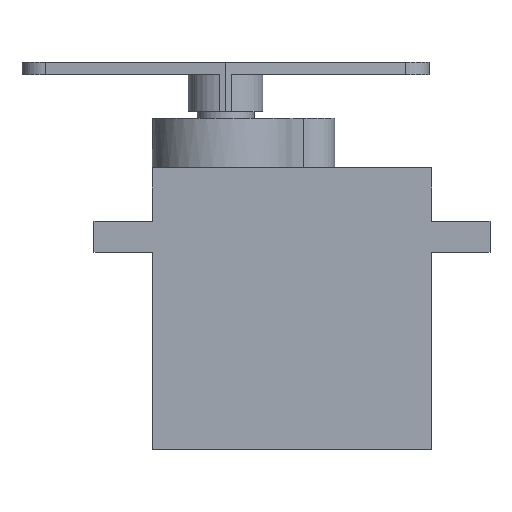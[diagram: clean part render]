
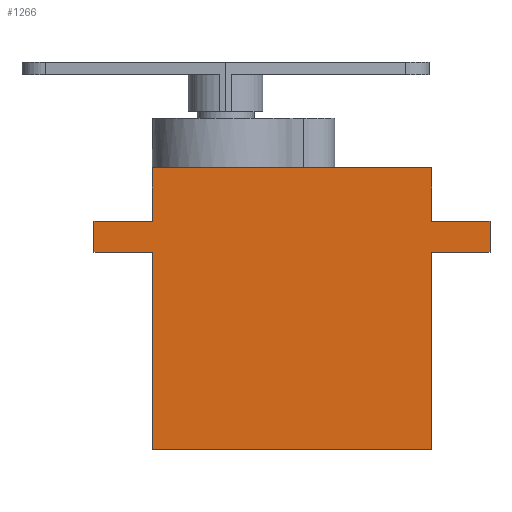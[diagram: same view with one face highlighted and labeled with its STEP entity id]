
A CAD part, front view. The second image highlights one B-rep face of the part: STEP entity #1266.
In plain terms, the highlighted planar face has unit normal (0, -1, 0).
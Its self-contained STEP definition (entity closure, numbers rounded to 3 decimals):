
#91=PLANE('',#1381);
#138=FACE_OUTER_BOUND('',#211,.T.);
#211=EDGE_LOOP('',(#996,#997,#998,#999,#1000,#1001,#1002,#1003,#1004,#1005,
#1006,#1007,#1008));
#295=LINE('',#1918,#406);
#298=LINE('',#1925,#409);
#312=LINE('',#1958,#423);
#316=LINE('',#1966,#427);
#318=LINE('',#1970,#429);
#323=LINE('',#1979,#434);
#324=LINE('',#1981,#435);
#335=LINE('',#2008,#446);
#340=LINE('',#2017,#451);
#345=LINE('',#2027,#456);
#346=LINE('',#2030,#457);
#350=LINE('',#2036,#461);
#351=LINE('',#2038,#462);
#406=VECTOR('',#1533,10.);
#409=VECTOR('',#1540,10.);
#423=VECTOR('',#1566,10.);
#427=VECTOR('',#1574,10.);
#429=VECTOR('',#1578,10.);
#434=VECTOR('',#1585,10.);
#435=VECTOR('',#1588,10.);
#446=VECTOR('',#1611,10.);
#451=VECTOR('',#1618,10.);
#456=VECTOR('',#1627,10.);
#457=VECTOR('',#1630,10.);
#461=VECTOR('',#1636,10.);
#462=VECTOR('',#1639,10.);
#580=VERTEX_POINT('',#1899);
#584=VERTEX_POINT('',#1916);
#586=VERTEX_POINT('',#1924);
#598=VERTEX_POINT('',#1955);
#599=VERTEX_POINT('',#1957);
#601=VERTEX_POINT('',#1965);
#602=VERTEX_POINT('',#1969);
#605=VERTEX_POINT('',#1977);
#614=VERTEX_POINT('',#2005);
#615=VERTEX_POINT('',#2007);
#618=VERTEX_POINT('',#2015);
#621=VERTEX_POINT('',#2025);
#622=VERTEX_POINT('',#2029);
#706=EDGE_CURVE('',#584,#580,#295,.T.);
#709=EDGE_CURVE('',#580,#586,#298,.T.);
#725=EDGE_CURVE('',#598,#599,#312,.T.);
#729=EDGE_CURVE('',#601,#599,#316,.T.);
#731=EDGE_CURVE('',#602,#601,#318,.T.);
#736=EDGE_CURVE('',#605,#598,#323,.T.);
#737=EDGE_CURVE('',#602,#584,#324,.T.);
#750=EDGE_CURVE('',#615,#614,#335,.T.);
#755=EDGE_CURVE('',#618,#614,#340,.T.);
#760=EDGE_CURVE('',#621,#618,#345,.T.);
#761=EDGE_CURVE('',#622,#615,#346,.T.);
#765=EDGE_CURVE('',#621,#586,#350,.T.);
#766=EDGE_CURVE('',#622,#605,#351,.T.);
#996=ORIENTED_EDGE('',*,*,#766,.F.);
#997=ORIENTED_EDGE('',*,*,#761,.T.);
#998=ORIENTED_EDGE('',*,*,#750,.T.);
#999=ORIENTED_EDGE('',*,*,#755,.F.);
#1000=ORIENTED_EDGE('',*,*,#760,.F.);
#1001=ORIENTED_EDGE('',*,*,#765,.T.);
#1002=ORIENTED_EDGE('',*,*,#709,.F.);
#1003=ORIENTED_EDGE('',*,*,#706,.F.);
#1004=ORIENTED_EDGE('',*,*,#737,.F.);
#1005=ORIENTED_EDGE('',*,*,#731,.T.);
#1006=ORIENTED_EDGE('',*,*,#729,.T.);
#1007=ORIENTED_EDGE('',*,*,#725,.F.);
#1008=ORIENTED_EDGE('',*,*,#736,.F.);
#1266=ADVANCED_FACE('',(#138),#91,.T.);
#1381=AXIS2_PLACEMENT_3D('',#2037,#1637,#1638);
#1533=DIRECTION('',(1.,0.,0.));
#1540=DIRECTION('',(1.,0.,0.));
#1566=DIRECTION('',(-1.,0.,0.));
#1574=DIRECTION('',(0.,0.,-1.));
#1578=DIRECTION('',(-1.,0.,0.));
#1585=DIRECTION('',(0.,0.,1.));
#1588=DIRECTION('',(0.,0.,1.));
#1611=DIRECTION('',(1.,0.,0.));
#1618=DIRECTION('',(0.,0.,-1.));
#1627=DIRECTION('',(1.,0.,0.));
#1630=DIRECTION('',(0.,0.,1.));
#1636=DIRECTION('',(0.,0.,1.));
#1637=DIRECTION('center_axis',(0.,-1.,0.));
#1638=DIRECTION('ref_axis',(1.,0.,0.));
#1639=DIRECTION('',(-1.,0.,0.));
#1899=CARTESIAN_POINT('',(-5.35,-5.9,22.7));
#1916=CARTESIAN_POINT('',(-11.25,-5.9,22.7));
#1918=CARTESIAN_POINT('',(11.25,-5.9,22.7));
#1924=CARTESIAN_POINT('',(11.25,-5.9,22.7));
#1925=CARTESIAN_POINT('',(11.25,-5.9,22.7));
#1955=CARTESIAN_POINT('',(-11.25,-5.9,15.9));
#1957=CARTESIAN_POINT('',(-15.95,-5.9,15.9));
#1958=CARTESIAN_POINT('',(-11.25,-5.9,15.9));
#1965=CARTESIAN_POINT('',(-15.95,-5.9,18.4));
#1966=CARTESIAN_POINT('',(-15.95,-5.9,15.9));
#1969=CARTESIAN_POINT('',(-11.25,-5.9,18.4));
#1970=CARTESIAN_POINT('',(-11.25,-5.9,18.4));
#1977=CARTESIAN_POINT('',(-11.25,-5.9,0.));
#1979=CARTESIAN_POINT('',(-11.25,-5.9,0.));
#1981=CARTESIAN_POINT('',(-11.25,-5.9,0.));
#2005=CARTESIAN_POINT('',(15.95,-5.9,15.9));
#2007=CARTESIAN_POINT('',(11.25,-5.9,15.9));
#2008=CARTESIAN_POINT('',(11.25,-5.9,15.9));
#2015=CARTESIAN_POINT('',(15.95,-5.9,18.4));
#2017=CARTESIAN_POINT('',(15.95,-5.9,15.9));
#2025=CARTESIAN_POINT('',(11.25,-5.9,18.4));
#2027=CARTESIAN_POINT('',(11.25,-5.9,18.4));
#2029=CARTESIAN_POINT('',(11.25,-5.9,0.));
#2030=CARTESIAN_POINT('',(11.25,-5.9,0.));
#2036=CARTESIAN_POINT('',(11.25,-5.9,0.));
#2037=CARTESIAN_POINT('Origin',(-11.25,-5.9,0.));
#2038=CARTESIAN_POINT('',(11.25,-5.9,0.));
